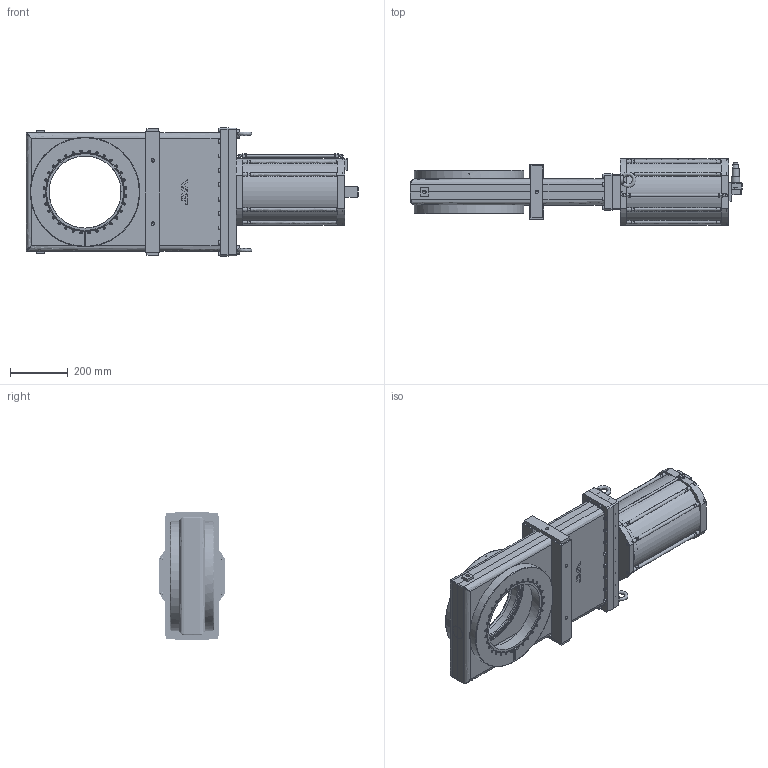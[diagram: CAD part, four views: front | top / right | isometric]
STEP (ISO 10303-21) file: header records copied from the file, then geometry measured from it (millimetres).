
FILE_DESCRIPTION((''),'2;1');
FILE_NAME('O:\MT\MT\Systeme\Cad\Datenexporte\www_vat_ch\251484.stp','2004-06-16T10:23:55',('User'),('SDRC'),'I-DEAS Master Series 9','UNIX','Yes');
FILE_SCHEMA(('CONFIG_CONTROL_DESIGN'));
Length unit declared in the file: millimetre
Assembly tree (72 placements, depth 0):
Bounding box: 1152.6 x 230 x 446 mm (x, y, z)
Volume: 15766505.9 mm3; surface area: 3060358.6 mm2
Topology: 132 solids, 132 shells, 2142 faces, 4671 edges, 3088 vertices
Faces by surface type: bspline 2142
Entity records: 48742 total; most frequent: CARTESIAN_POINT 26550, ORIENTED_EDGE 5364, EDGE_CURVE 2682, VERTEX_POINT 1777, EDGE_LOOP 1697, FACE_OUTER_BOUND 1255, ADVANCED_FACE 1255, QUASI_UNIFORM_CURVE 1014
